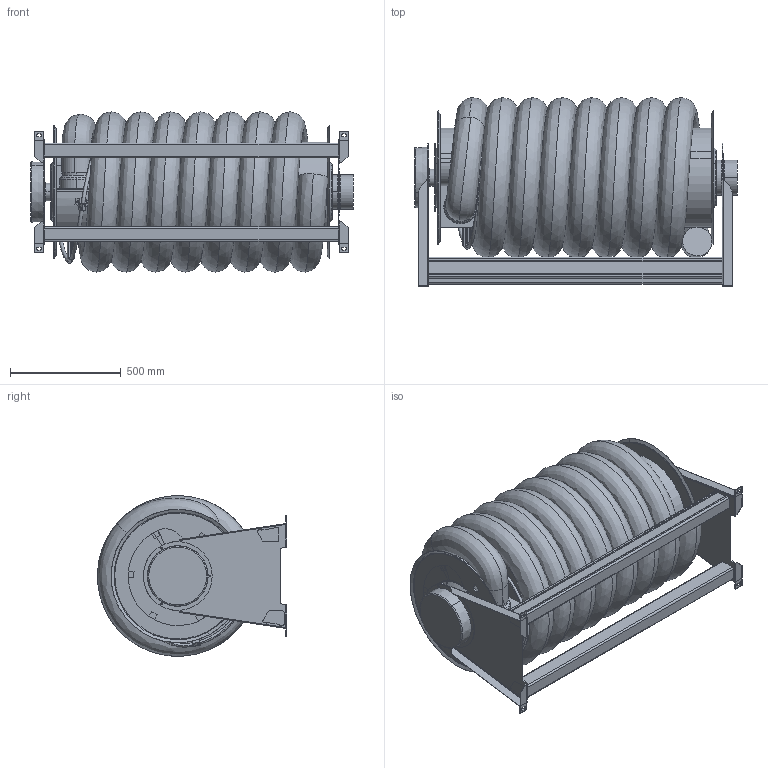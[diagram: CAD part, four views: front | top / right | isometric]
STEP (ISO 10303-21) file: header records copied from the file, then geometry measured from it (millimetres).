
FILE_DESCRIPTION((''),'2;1');
FILE_NAME('ASE_125_125-15_SW0001','2016-12-15T',('Martin Eriksson'),(''),'CREO PARAMETRIC BY PTC INC, 2016130','CREO PARAMETRIC BY PTC INC, 2016130','');
FILE_SCHEMA(('AUTOMOTIVE_DESIGN { 1 0 10303 214 1 1 1 1 }'));
Length unit declared in the file: millimetre
Products named in the file (1): ASE_125_125-15_SW0001
Bounding box: 1453.5 x 851.5 x 722.97 mm (x, y, z)
Surface area: 11683953 mm2 (no closed solid volume)
Topology: 0 solids, 32 shells, 371 faces, 1236 edges, 878 vertices
Faces by surface type: plane 193, cylinder 102, torus 31, bspline 23, cone 22
Entity records: 30743 total; most frequent: CARTESIAN_POINT 17768, DIRECTION 2267, ORIENTED_EDGE 1854, EDGE_CURVE 1236, VERTEX_POINT 878, VECTOR 785, LINE 785, AXIS2_PLACEMENT_3D 741
